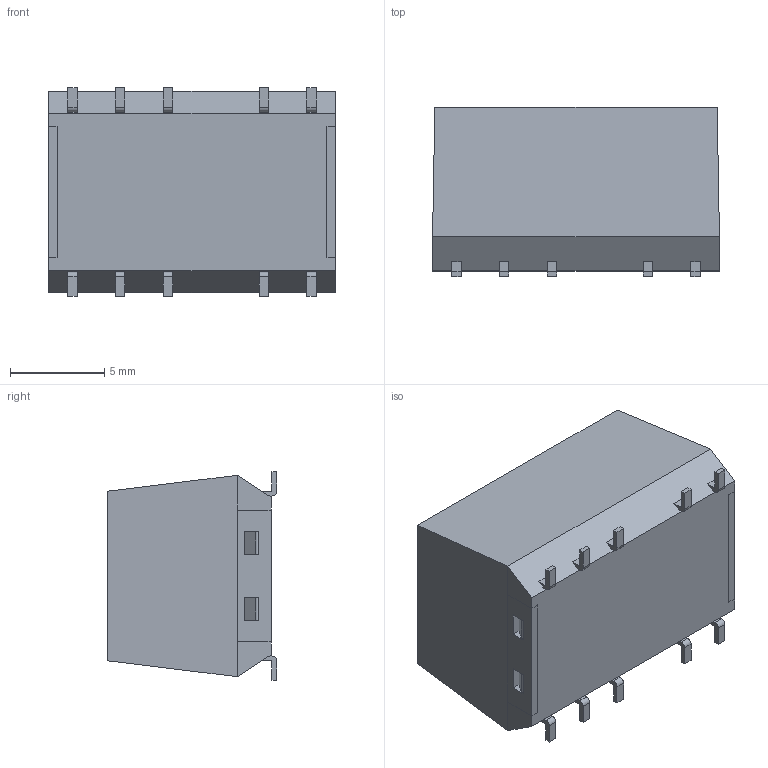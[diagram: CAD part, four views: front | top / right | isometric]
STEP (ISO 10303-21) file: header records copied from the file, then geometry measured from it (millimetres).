
FILE_DESCRIPTION(/* description */ (''),/* implementation_level */ '2;1');
FILE_NAME(/* name */ '\\192.168.1.249\ctc\上下蓋圖面查詢表\Data Sheet圖面\客戶別\CTC\DC\M series\12M2S-0505(CV118 & H4-0254-023A)\PACKAGE\12M2S.stp',/* time_stamp */ '2024-05-24T08:54:55+08:00',/* author */ ('ching'),/* organization */ (''),/* preprocessor_version */ 'ST-DEVELOPER v16.5',/* originating_system */ 'Autodesk Inventor 2017',/* authorisation */ '');
FILE_SCHEMA (('AUTOMOTIVE_DESIGN { 1 0 10303 214 3 1 1 }'));
Length unit declared in the file: millimetre
Products named in the file (1): 零件1
Bounding box: 15.24 x 9 x 11.1 mm (x, y, z)
Volume: 1290.8 mm3; surface area: 1110.2 mm2
Topology: 12 solids, 12 shells, 156 faces, 380 edges, 252 vertices
Faces by surface type: plane 142, cylinder 14
Entity records: 4550 total; most frequent: CARTESIAN_POINT 789, ORIENTED_EDGE 760, DIRECTION 722, EDGE_CURVE 380, LINE 352, VECTOR 352, VERTEX_POINT 252, AXIS2_PLACEMENT_3D 185
